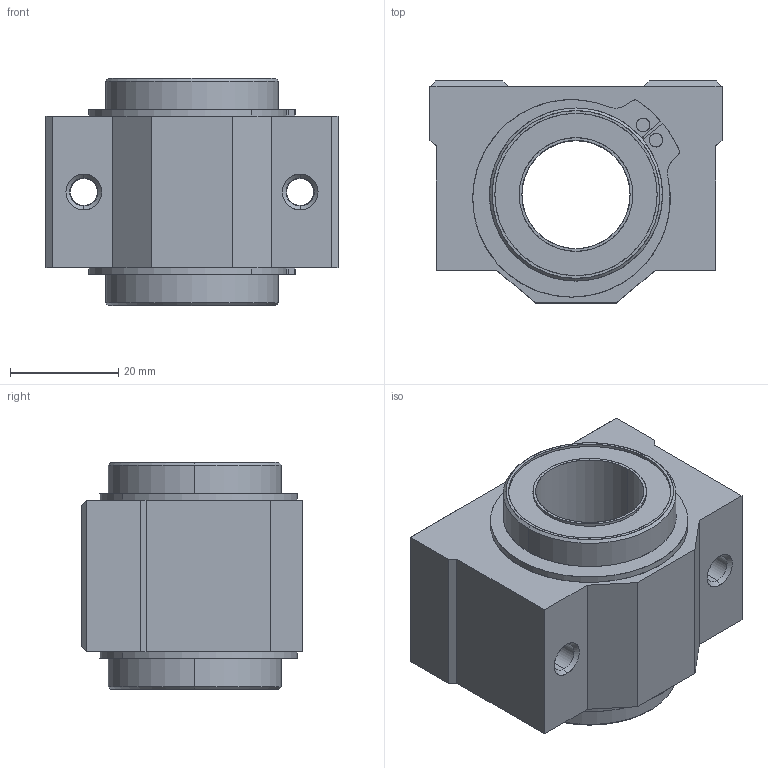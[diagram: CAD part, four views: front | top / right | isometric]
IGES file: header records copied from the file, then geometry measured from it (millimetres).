
Start section: SolidWorks IGES file using analytic representation for surfaces
Global section: file name: D:\SOLIDWORKS PROEKTI\freelance cnc cat\VTORA SERIJA\SC-VUU\SC20VUU.IGS; native system: SolidWorks 2016; preprocessor: SolidWorks 2016; author: User; date: 170805.200625; units: millimetre
Bounding box: 54 x 41 x 42 mm (x, y, z)
Surface area: 21373.1 mm2 (no closed solid volume)
Topology: 0 solids, 0 shells, 296 faces, 7563 edges, 9115 vertices
Faces by surface type: bspline 209, revolution 87
